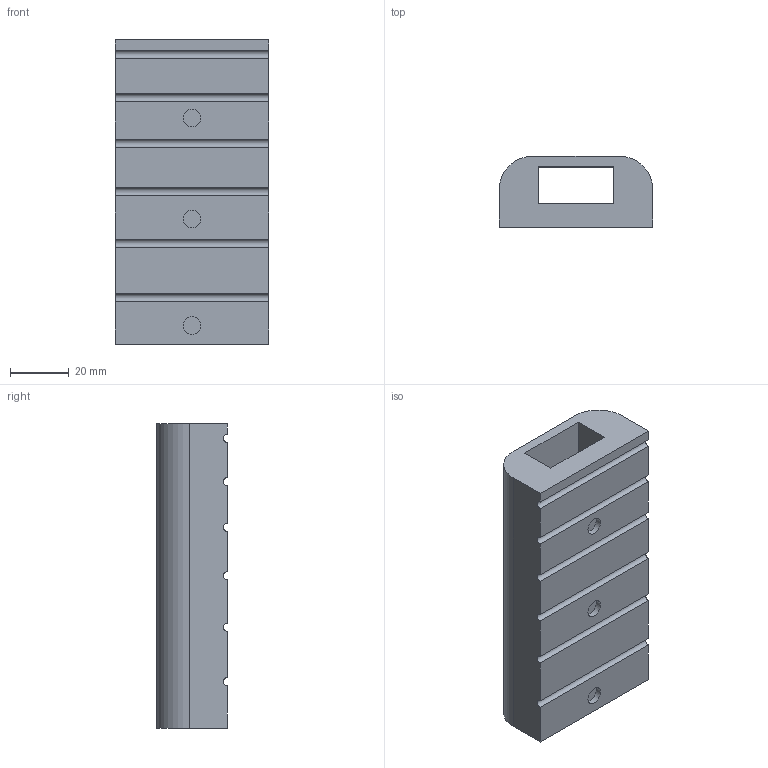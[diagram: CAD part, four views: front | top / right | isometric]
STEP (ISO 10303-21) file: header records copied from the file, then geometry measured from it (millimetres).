
FILE_DESCRIPTION(('STEP AP203'), '1');
FILE_NAME('ëàä2', '', ('UNSPECIFIED'), ('UNSPECIFIED'), 'ASCON STEP Converter 1.3', 'ASCON Math Kernel', '');
FILE_SCHEMA(('CONFIG_CONTROL_DESIGN'));
Length unit declared in the file: millimetre
Bounding box: 52 x 24 x 103.42 mm (x, y, z)
Volume: 89539.8 mm3; surface area: 24935.6 mm2
Topology: 1 solids, 1 shells, 30 faces, 75 edges, 50 vertices
Faces by surface type: plane 19, cylinder 11
Full cylindrical faces by diameter (mm): 6 x3
Entity records: 1174 total; most frequent: DIRECTION 156, CARTESIAN_POINT 153, ORIENTED_EDGE 144, EDGE_CURVE 72, AXIS2_PLACEMENT_3D 53, VERTEX_POINT 50, LINE 50, VECTOR 50
